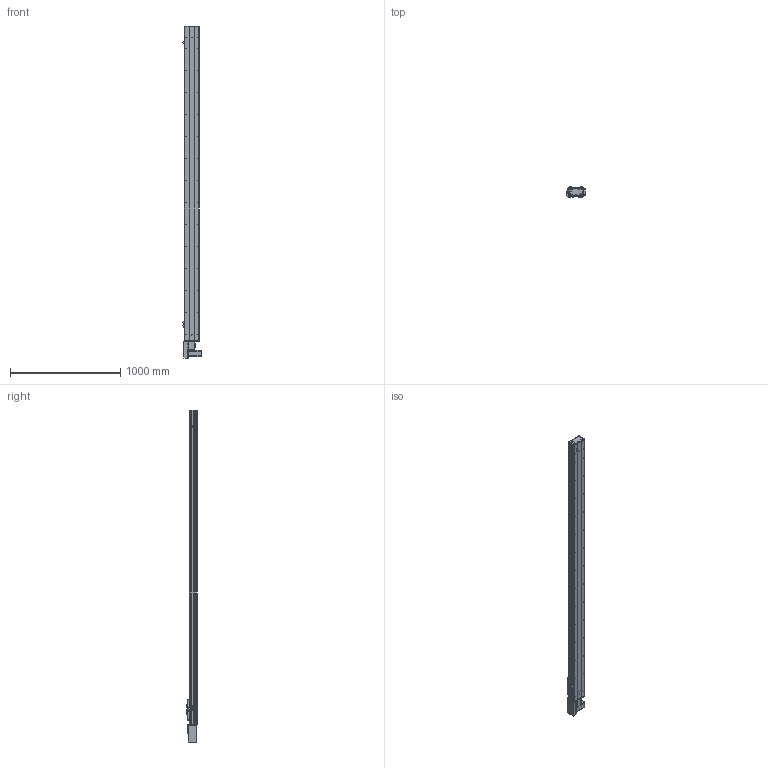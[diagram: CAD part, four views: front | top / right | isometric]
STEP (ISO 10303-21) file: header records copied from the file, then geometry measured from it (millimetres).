
FILE_DESCRIPTION (( 'STEP AP203' ), '1' );
FILE_NAME ('Y135CB-D90-S2550-BR-P400W.STEP', '2020-02-18T03:07:26', ( '微软用户' ), ( '微软中国' ), 'SwSTEP 2.0', 'SolidWorks 2017', '' );
FILE_SCHEMA (( 'CONFIG_CONTROL_DESIGN' ));
Length unit declared in the file: millimetre
Products named in the file (18): C-詩湍揤踡え-陔; 35CB---喘謫眊楊擘啣; 135CB--詩湍-CE; Y10B-耜蚾蟀諉啣----; Y100-135俋离換覜ん--; Y俋欶BR----; Y135C-陔俋离換覜結え-; 0B-埴倛裔啣; 5C--俋欶; Y135CB-D90-S2550-BR-P400W; 0B-源倛裔啣; C-雄赽釱--; 0B-萇儂楊擘啣; Y10B--々湍喘謫眊--666; san松下电机400不带刹车----; Y135CB-耜裔; 5CB --掛极耜裔啣-; 135CB---遴掛极.-
Assembly tree (21 placements, depth 2):
  Y135CB-D90-S2550-BR-P400W
    Y135CB-耜裔
    135CB---遴掛极.-
    35CB---喘謫眊楊擘啣
    Y10B-耜蚾蟀諉啣----
    Y俋欶BR----
    0B-埴倛裔啣
    0B-源倛裔啣
    0B-萇儂楊擘啣
    san松下电机400不带刹车----
    5CB --掛极耜裔啣-  x2
    C-詩湍揤踡え-陔  x2
    135CB--詩湍-CE
    Y100-135俋离換覜ん--  x3
    Y135C-陔俋离換覜結え-
    5C--俋欶
    C-雄赽釱--
    Y10B--々湍喘謫眊--666
Bounding box: 167.5 x 91 x 3014.5 mm (x, y, z)
Volume: 8412457.8 mm3; surface area: 3333260.9 mm2
Topology: 21 solids, 21 shells, 977 faces, 2671 edges, 1770 vertices
Faces by surface type: cylinder 503, plane 458, cone 16
Entity records: 30957 total; most frequent: CARTESIAN_POINT 5164, DIRECTION 5143, ORIENTED_EDGE 4818, EDGE_CURVE 2409, AXIS2_PLACEMENT_3D 1885, VERTEX_POINT 1598, VECTOR 1373, LINE 1373
